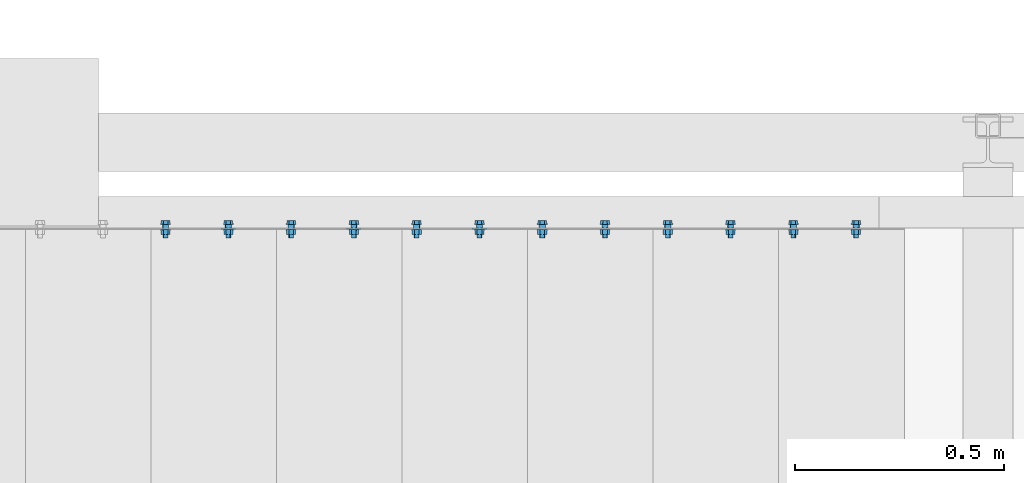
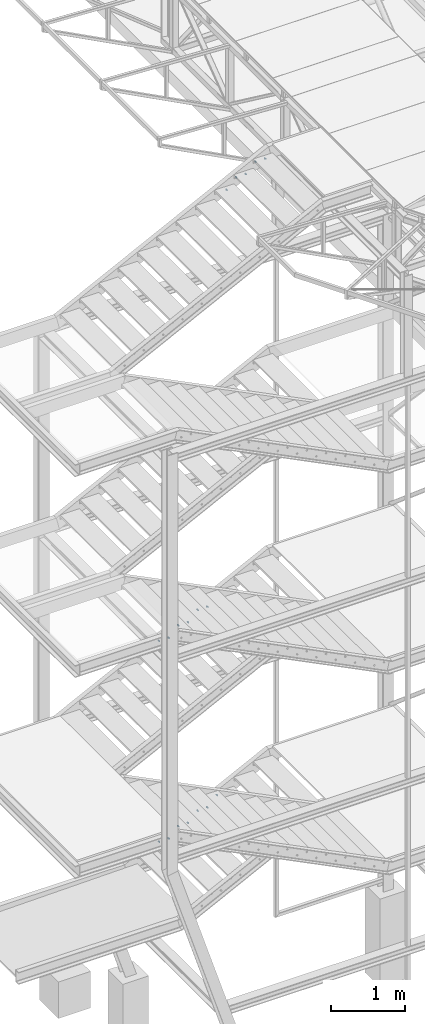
# One storey, part 113 of 132: 18 mechanical fasteners, 10 elements without a shape of their own.
"""IFC2X3 building model written with IfcOpenShell, lengths in millimetres."""

from ifc_helpers import new_model, si_unit, frame, frame_2d, origin_with_axes, origin_2d_with_axis, place, context, subcontext, project, spatial, polyline, circle_curve, parameter, trimmed, segment, composite_curve, circle, outline, extrude, source, transform, mapped, material, type_object, element, aggregate, save


model = new_model("IFC2X3")

# Units and contexts
model_context = context("Model", 3, precision=1e-05, world=origin_with_axes())
body_context = subcontext(model_context, "Body", "Model", "MODEL_VIEW")
ifc_project = project(units=[si_unit("LENGTHUNIT", "METRE", prefix="MILLI"), si_unit("AREAUNIT", "SQUARE_METRE"), si_unit("VOLUMEUNIT", "CUBIC_METRE"), si_unit("MASSUNIT", "GRAM", prefix="KILO"), si_unit("TIMEUNIT", "SECOND"), si_unit("PLANEANGLEUNIT", "RADIAN"), si_unit("SOLIDANGLEUNIT", "STERADIAN"), si_unit("THERMODYNAMICTEMPERATUREUNIT", "DEGREE_CELSIUS"), si_unit("LUMINOUSINTENSITYUNIT", "LUMEN")], contexts=[model_context])

# Site, building, storey
site_placement = place(None, origin_with_axes())
site = spatial("IfcSite", under=ifc_project, at=site_placement, Name="Budowa", CompositionType="ELEMENT")
building_placement = place(site_placement, origin_with_axes())
building = spatial("IfcBuilding", under=site, at=building_placement, Name="Undefined", CompositionType="ELEMENT")
storey_placement = place(building_placement, origin_with_axes())
storey = spatial("IfcBuildingStorey", under=building, at=storey_placement, Name="Undefined", CompositionType="ELEMENT", Elevation=0.0)

# Assembly, mechanical fasteners
assembly_1_placement = place(storey_placement, origin_with_axes())
assembly_1 = element("IfcElementAssembly", 1, at=assembly_1_placement, inside=storey, Name="Steel Assembly", AssemblyPlace="NOTDEFINED", PredefinedType="RIGID_FRAME")
ifc_material = material(Name="Undefined")
discrete_accessory_type = type_object("IfcDiscreteAccessoryType", Name="Bolt assembly")
shared_shape_1 = source(origin_with_axes(), body_context, "Body", "SweptSolid", [
    extrude(circle(Radius=7.5, at=origin_2d_with_axis()), frame((0.0, -8.40000000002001, 0.0), z_axis=(0.0, 1.0, 0.0), x_axis=(1.0, 0.0, 0.0)), (0.0, 0.0, 1.0), 8.5),
    extrude(outline(composite_curve([segment(polyline([(-10.0, 7.5), (10.0, 7.5)]), True, "CONTINUOUS"), segment(trimmed(circle_curve(frame_2d((10.0, 0.0), x_axis=(0.0, 1.0)), 7.5), [parameter(0.0)], [parameter(3.14159265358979)], False, "PARAMETER"), True, "CONTINUOUS"), segment(polyline([(10.0, -7.5), (-10.0, -7.5)]), True, "CONTINUOUS"), segment(trimmed(circle_curve(frame_2d((-10.0, 0.0), x_axis=(0.0, -1.0)), 7.5), [parameter(0.0)], [parameter(3.14159265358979)], False, "PARAMETER"), True, "DISCONTINUOUS")], self_intersect=False)), frame((0.0, -0.1, 0.0), z_axis=(0.0, 1.0, 0.0), x_axis=(1.0, 0.0, 0.0)), (0.0, 0.0, 1.0), 3.1),
    extrude(outline(polyline([(10.39230484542, 0.0), (5.19615242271, 9.00000000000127), (-5.19615242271, 9.00000000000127), (-10.39230484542, 0.0), (-5.19615242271, -9.00000000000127), (5.19615242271, -9.00000000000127), (10.39230484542, 0.0)])), frame((0.0, -18.50000000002, 0.0), z_axis=(0.0, 1.0, 0.0), x_axis=(1.0, 0.0, 0.0)), (0.0, 0.0, 1.0), 7.5),
    extrude(circle(Radius=6.0, at=origin_2d_with_axis()), frame((0.0, -11.00000000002, 0.0), z_axis=(0.0, 1.0, 0.0), x_axis=(1.0, 0.0, 0.0)), (0.0, 0.0, 1.0), 35.0),
    extrude(circle(Radius=12.0, at=origin_2d_with_axis()), frame((0.0, -11.00000000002, 0.0), z_axis=(0.0, 1.0, 0.0), x_axis=(1.0, 0.0, 0.0)), (0.0, 0.0, 1.0), 2.5),
    extrude(circle(Radius=12.0, at=origin_2d_with_axis()), frame((0.0, 3.0, 0.0), z_axis=(0.0, 1.0, 0.0), x_axis=(1.0, 0.0, 0.0)), (0.0, 0.0, 1.0), 2.5),
    extrude(outline(polyline([(10.96965511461, 0.0), (5.484827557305, 9.50000000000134), (-5.484827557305, 9.50000000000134), (-10.96965511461, 0.0), (-5.484827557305, -9.50000000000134), (5.484827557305, -9.50000000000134), (10.96965511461, 0.0)])), frame((0.0, 5.5, 0.0), z_axis=(0.0, 1.0, 0.0), x_axis=(1.0, 0.0, 0.0)), (0.0, 0.0, 1.0), 10.0),
])
mechanical_fastener_1_placement = place(assembly_1_placement, frame((-1120.00000008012, 10925.0000000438, 13849.9999999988), z_axis=(0.0, 0.0, -1.0), x_axis=(1.0, 0.0, 0.0)))
mechanical_fastener_1 = element("IfcMechanicalFastener", 2, at=mechanical_fastener_1_placement, type_object=discrete_accessory_type, material=ifc_material, Name="Bolt assembly", NominalDiameter=12.0, NominalLength=35.0, context=body_context, shape_type="MappedRepresentation", body=[
    mapped(shared_shape_1, transform((185.0, 0.0, 25.0))),
])
shared_shape_2 = source(origin_with_axes(), body_context, "Body", "SweptSolid", [
    extrude(circle(Radius=7.5, at=origin_2d_with_axis()), frame((0.0, -8.40000000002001, 0.0), z_axis=(0.0, 1.0, 0.0), x_axis=(1.0, 0.0, 0.0)), (0.0, 0.0, 1.0), 8.5),
    extrude(circle(Radius=7.5, at=origin_2d_with_axis()), frame((0.0, -0.1, 0.0), z_axis=(0.0, 1.0, 0.0), x_axis=(1.0, 0.0, 0.0)), (0.0, 0.0, 1.0), 3.1),
    extrude(outline(polyline([(10.39230484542, 0.0), (5.19615242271, 9.00000000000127), (-5.19615242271, 9.00000000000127), (-10.39230484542, 0.0), (-5.19615242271, -9.00000000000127), (5.19615242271, -9.00000000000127), (10.39230484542, 0.0)])), frame((0.0, -18.50000000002, 0.0), z_axis=(0.0, 1.0, 0.0), x_axis=(1.0, 0.0, 0.0)), (0.0, 0.0, 1.0), 7.5),
    extrude(circle(Radius=6.0, at=origin_2d_with_axis()), frame((0.0, -11.00000000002, 0.0), z_axis=(0.0, 1.0, 0.0), x_axis=(1.0, 0.0, 0.0)), (0.0, 0.0, 1.0), 35.0),
    extrude(circle(Radius=12.0, at=origin_2d_with_axis()), frame((0.0, -11.00000000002, 0.0), z_axis=(0.0, 1.0, 0.0), x_axis=(1.0, 0.0, 0.0)), (0.0, 0.0, 1.0), 2.5),
    extrude(circle(Radius=12.0, at=origin_2d_with_axis()), frame((0.0, 3.0, 0.0), z_axis=(0.0, 1.0, 0.0), x_axis=(1.0, 0.0, 0.0)), (0.0, 0.0, 1.0), 2.5),
    extrude(outline(polyline([(10.96965511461, 0.0), (5.484827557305, 9.50000000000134), (-5.484827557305, 9.50000000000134), (-10.96965511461, 0.0), (-5.484827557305, -9.50000000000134), (5.484827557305, -9.50000000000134), (10.96965511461, 0.0)])), frame((0.0, 5.5, 0.0), z_axis=(0.0, 1.0, 0.0), x_axis=(1.0, 0.0, 0.0)), (0.0, 0.0, 1.0), 10.0),
])
mechanical_fastener_2_placement = place(assembly_1_placement, frame((-1120.00000008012, 10925.0000000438, 13849.9999999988), z_axis=(0.0, 0.0, -1.0), x_axis=(1.0, 0.0, 0.0)))
mechanical_fastener_2 = element("IfcMechanicalFastener", 3, at=mechanical_fastener_2_placement, type_object=discrete_accessory_type, material=ifc_material, Name="Bolt assembly", NominalDiameter=12.0, NominalLength=35.0, context=body_context, shape_type="MappedRepresentation", body=[
    mapped(shared_shape_2, transform((35.0, 0.0, 25.0))),
])
aggregate(assembly_1, [mechanical_fastener_1, mechanical_fastener_2])

# Assembly, mechanical fastener
assembly_2_placement = place(storey_placement, origin_with_axes())
assembly_2 = element("IfcElementAssembly", 4, at=assembly_2_placement, inside=storey, Name="Steel Assembly", AssemblyPlace="NOTDEFINED", PredefinedType="RIGID_FRAME")
mechanical_fastener_3_placement = place(assembly_2_placement, frame((-1420.00000008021, 10925.0000000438, 13699.9999999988), z_axis=(0.0, 0.0, -1.0), x_axis=(1.0, 0.0, 0.0)))
mechanical_fastener_3 = element("IfcMechanicalFastener", 5, at=mechanical_fastener_3_placement, type_object=discrete_accessory_type, material=ifc_material, Name="Bolt assembly", NominalDiameter=12.0, NominalLength=35.0, context=body_context, shape_type="MappedRepresentation", body=[
    mapped(shared_shape_2, transform((35.0, 0.0, 25.0))),
])

assembly_3_placement = place(storey_placement, origin_with_axes())
assembly_3 = element("IfcElementAssembly", 6, at=assembly_3_placement, inside=storey, Name="Steel Assembly", AssemblyPlace="NOTDEFINED", PredefinedType="RIGID_FRAME")
mechanical_fastener_4_placement = place(assembly_3_placement, frame((-2020.00000008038, 10925.0000000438, 6799.99999999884), z_axis=(0.0, 0.0, -1.0), x_axis=(1.0, 0.0, 0.0)))
mechanical_fastener_4 = element("IfcMechanicalFastener", 7, at=mechanical_fastener_4_placement, type_object=discrete_accessory_type, material=ifc_material, Name="Bolt assembly", NominalDiameter=12.0, NominalLength=35.0, context=body_context, shape_type="MappedRepresentation", body=[
    mapped(shared_shape_2, transform((35.0, 0.0, 25.0))),
])

assembly_4_placement = place(storey_placement, origin_with_axes())
assembly_4 = element("IfcElementAssembly", 8, at=assembly_4_placement, inside=storey, Name="Steel Assembly", AssemblyPlace="NOTDEFINED", PredefinedType="RIGID_FRAME")
mechanical_fastener_5_placement = place(assembly_4_placement, frame((-2320.00000008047, 10925.0000000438, 6649.99999999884), z_axis=(0.0, 0.0, -1.0), x_axis=(1.0, 0.0, 0.0)))
mechanical_fastener_5 = element("IfcMechanicalFastener", 9, at=mechanical_fastener_5_placement, type_object=discrete_accessory_type, material=ifc_material, Name="Bolt assembly", NominalDiameter=12.0, NominalLength=35.0, context=body_context, shape_type="MappedRepresentation", body=[
    mapped(shared_shape_2, transform((35.0, 0.0, 25.0))),
])

assembly_5_placement = place(storey_placement, origin_with_axes())
assembly_5 = element("IfcElementAssembly", 10, at=assembly_5_placement, inside=storey, Name="Steel Assembly", AssemblyPlace="NOTDEFINED", PredefinedType="RIGID_FRAME")
mechanical_fastener_6_placement = place(assembly_5_placement, frame((-2620.00000008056, 10925.0000000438, 6499.99999999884), z_axis=(0.0, 0.0, -1.0), x_axis=(1.0, 0.0, 0.0)))
mechanical_fastener_6 = element("IfcMechanicalFastener", 11, at=mechanical_fastener_6_placement, type_object=discrete_accessory_type, material=ifc_material, Name="Bolt assembly", NominalDiameter=12.0, NominalLength=35.0, context=body_context, shape_type="MappedRepresentation", body=[
    mapped(shared_shape_2, transform((35.0, 0.0, 25.0))),
])

assembly_6_placement = place(storey_placement, origin_with_axes())
assembly_6 = element("IfcElementAssembly", 12, at=assembly_6_placement, inside=storey, Name="Steel Assembly", AssemblyPlace="NOTDEFINED", PredefinedType="RIGID_FRAME")
mechanical_fastener_7_placement = place(assembly_6_placement, frame((-1720.00000008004, 10925.0000000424, 3649.99999999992), z_axis=(0.0, 0.0, -1.0), x_axis=(1.0, 0.0, 0.0)))
mechanical_fastener_7 = element("IfcMechanicalFastener", 13, at=mechanical_fastener_7_placement, type_object=discrete_accessory_type, material=ifc_material, Name="Bolt assembly", NominalDiameter=12.0, NominalLength=35.0, context=body_context, shape_type="MappedRepresentation", body=[
    mapped(shared_shape_2, transform((35.0, 0.0, 25.0))),
])
aggregate(assembly_6, [mechanical_fastener_7])

assembly_7_placement = place(storey_placement, origin_with_axes())
assembly_7 = element("IfcElementAssembly", 14, at=assembly_7_placement, inside=storey, Name="Steel Assembly", AssemblyPlace="NOTDEFINED", PredefinedType="RIGID_FRAME")
mechanical_fastener_8_placement = place(assembly_7_placement, frame((-2020.00000008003, 10925.0000000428, 3499.99999999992), z_axis=(0.0, 0.0, -1.0), x_axis=(1.0, 0.0, 0.0)))
mechanical_fastener_8 = element("IfcMechanicalFastener", 15, at=mechanical_fastener_8_placement, type_object=discrete_accessory_type, material=ifc_material, Name="Bolt assembly", NominalDiameter=12.0, NominalLength=35.0, context=body_context, shape_type="MappedRepresentation", body=[
    mapped(shared_shape_2, transform((35.0, 0.0, 25.0))),
])

assembly_8_placement = place(storey_placement, origin_with_axes())
assembly_8 = element("IfcElementAssembly", 16, at=assembly_8_placement, inside=storey, Name="Steel Assembly", AssemblyPlace="NOTDEFINED", PredefinedType="RIGID_FRAME")
mechanical_fastener_9_placement = place(assembly_8_placement, frame((-2320.00000008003, 10925.0000000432, 3349.99999999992), z_axis=(0.0, 0.0, -1.0), x_axis=(1.0, 0.0, 0.0)))
mechanical_fastener_9 = element("IfcMechanicalFastener", 17, at=mechanical_fastener_9_placement, type_object=discrete_accessory_type, material=ifc_material, Name="Bolt assembly", NominalDiameter=12.0, NominalLength=35.0, context=body_context, shape_type="MappedRepresentation", body=[
    mapped(shared_shape_2, transform((35.0, 0.0, 25.0))),
])

assembly_9_placement = place(storey_placement, origin_with_axes())
assembly_9 = element("IfcElementAssembly", 18, at=assembly_9_placement, inside=storey, Name="Steel Assembly", AssemblyPlace="NOTDEFINED", PredefinedType="RIGID_FRAME")
mechanical_fastener_10_placement = place(assembly_9_placement, frame((-2620.00000008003, 10925.0000000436, 3199.99999999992), z_axis=(0.0, 0.0, -1.0), x_axis=(1.0, 0.0, 0.0)))
mechanical_fastener_10 = element("IfcMechanicalFastener", 19, at=mechanical_fastener_10_placement, type_object=discrete_accessory_type, material=ifc_material, Name="Bolt assembly", NominalDiameter=12.0, NominalLength=35.0, context=body_context, shape_type="MappedRepresentation", body=[
    mapped(shared_shape_2, transform((35.0, 0.0, 25.0))),
])

# Mechanical fastener
shared_shape_3 = source(origin_with_axes(), body_context, "Body", "SweptSolid", [
    extrude(circle(Radius=7.5, at=origin_2d_with_axis()), frame((0.0, -8.40000000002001, 0.0), z_axis=(0.0, 1.0, 0.0), x_axis=(1.0, 0.0, 0.0)), (0.0, 0.0, 1.0), 8.5),
    extrude(outline(composite_curve([segment(polyline([(-10.0, 7.5), (10.0, 7.5)]), True, "CONTINUOUS"), segment(trimmed(circle_curve(frame_2d((10.0, 0.0), x_axis=(0.0, 1.0)), 7.5), [parameter(0.0)], [parameter(3.14159265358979)], False, "PARAMETER"), True, "CONTINUOUS"), segment(polyline([(10.0, -7.5), (-10.0, -7.5)]), True, "CONTINUOUS"), segment(trimmed(circle_curve(frame_2d((-10.0, 0.0), x_axis=(0.0, -1.0)), 7.5), [parameter(0.0)], [parameter(3.14159265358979)], False, "PARAMETER"), True, "DISCONTINUOUS")], self_intersect=False)), frame((0.0, -0.1, 0.0), z_axis=(0.0, 1.0, 0.0), x_axis=(1.0, 0.0, 0.0)), (0.0, 0.0, 1.0), 3.1),
    extrude(outline(polyline([(10.39230484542, 0.0), (5.19615242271, 9.00000000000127), (-5.19615242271, 9.00000000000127), (-10.39230484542, 0.0), (-5.19615242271, -9.00000000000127), (5.19615242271, -9.00000000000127), (10.39230484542, 0.0)])), frame((0.0, -18.50000000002, 0.0), z_axis=(0.0, 1.0, 0.0), x_axis=(1.0, 0.0, 0.0)), (0.0, 0.0, 1.0), 7.5),
    extrude(circle(Radius=6.0, at=origin_2d_with_axis()), frame((0.0, -11.00000000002, 0.0), z_axis=(0.0, 1.0, 0.0), x_axis=(1.0, 0.0, 0.0)), (0.0, 0.0, 1.0), 35.0),
    extrude(circle(Radius=12.0, at=origin_2d_with_axis()), frame((0.0, -11.00000000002, 0.0), z_axis=(0.0, 1.0, 0.0), x_axis=(1.0, 0.0, 0.0)), (0.0, 0.0, 1.0), 2.5),
    extrude(circle(Radius=12.0, at=origin_2d_with_axis()), frame((0.0, 3.0, 0.0), z_axis=(0.0, 1.0, 0.0), x_axis=(1.0, 0.0, 0.0)), (0.0, 0.0, 1.0), 2.5),
    extrude(outline(polyline([(10.96965511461, 0.0), (5.484827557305, 9.50000000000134), (-5.484827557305, 9.50000000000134), (-10.96965511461, 0.0), (-5.484827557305, -9.50000000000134), (5.484827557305, -9.50000000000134), (10.96965511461, 0.0)])), frame((0.0, 5.5, 0.0), z_axis=(0.0, 1.0, 0.0), x_axis=(1.0, 0.0, 0.0)), (0.0, 0.0, 1.0), 10.0),
])
mechanical_fastener_11_placement = place(assembly_2_placement, frame((-1420.00000008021, 10925.0000000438, 13699.9999999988), z_axis=(0.0, 0.0, -1.0), x_axis=(1.0, 0.0, 0.0)))
mechanical_fastener_11 = element("IfcMechanicalFastener", 20, at=mechanical_fastener_11_placement, type_object=discrete_accessory_type, material=ifc_material, Name="Bolt assembly", NominalDiameter=12.0, NominalLength=35.0, context=body_context, shape_type="MappedRepresentation", body=[
    mapped(shared_shape_3, transform((185.0, 0.0, 25.0))),
])

aggregate(assembly_2, [mechanical_fastener_11, mechanical_fastener_3])

# Assembly, mechanical fastener
assembly_10_placement = place(storey_placement, origin_with_axes())
assembly_10 = element("IfcElementAssembly", 21, at=assembly_10_placement, inside=storey, Name="Steel Assembly", AssemblyPlace="NOTDEFINED", PredefinedType="RIGID_FRAME")
shared_shape_4 = source(origin_with_axes(), body_context, "Body", "SweptSolid", [
    extrude(circle(Radius=7.5, at=origin_2d_with_axis()), frame((0.0, -8.40000000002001, 0.0), z_axis=(0.0, 1.0, 0.0), x_axis=(1.0, 0.0, 0.0)), (0.0, 0.0, 1.0), 8.5),
    extrude(outline(composite_curve([segment(polyline([(-10.0, 7.5), (10.0, 7.5)]), True, "CONTINUOUS"), segment(trimmed(circle_curve(frame_2d((10.0, 0.0), x_axis=(0.0, 1.0)), 7.5), [parameter(0.0)], [parameter(3.14159265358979)], False, "PARAMETER"), True, "CONTINUOUS"), segment(polyline([(10.0, -7.5), (-10.0, -7.5)]), True, "CONTINUOUS"), segment(trimmed(circle_curve(frame_2d((-10.0, 0.0), x_axis=(0.0, -1.0)), 7.5), [parameter(0.0)], [parameter(3.14159265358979)], False, "PARAMETER"), True, "DISCONTINUOUS")], self_intersect=False)), frame((0.0, -0.1, 0.0), z_axis=(0.0, 1.0, 0.0), x_axis=(1.0, 0.0, 0.0)), (0.0, 0.0, 1.0), 3.1),
    extrude(outline(polyline([(10.39230484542, 0.0), (5.19615242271, 9.00000000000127), (-5.19615242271, 9.00000000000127), (-10.39230484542, 0.0), (-5.19615242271, -9.00000000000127), (5.19615242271, -9.00000000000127), (10.39230484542, 0.0)])), frame((0.0, -18.50000000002, 0.0), z_axis=(0.0, 1.0, 0.0), x_axis=(1.0, 0.0, 0.0)), (0.0, 0.0, 1.0), 7.5),
    extrude(circle(Radius=6.0, at=origin_2d_with_axis()), frame((0.0, -11.00000000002, 0.0), z_axis=(0.0, 1.0, 0.0), x_axis=(1.0, 0.0, 0.0)), (0.0, 0.0, 1.0), 35.0),
    extrude(circle(Radius=12.0, at=origin_2d_with_axis()), frame((0.0, -11.00000000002, 0.0), z_axis=(0.0, 1.0, 0.0), x_axis=(1.0, 0.0, 0.0)), (0.0, 0.0, 1.0), 2.5),
    extrude(circle(Radius=12.0, at=origin_2d_with_axis()), frame((0.0, 3.0, 0.0), z_axis=(0.0, 1.0, 0.0), x_axis=(1.0, 0.0, 0.0)), (0.0, 0.0, 1.0), 2.5),
    extrude(outline(polyline([(10.96965511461, 0.0), (5.484827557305, 9.50000000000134), (-5.484827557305, 9.50000000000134), (-10.96965511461, 0.0), (-5.484827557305, -9.50000000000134), (5.484827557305, -9.50000000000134), (10.96965511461, 0.0)])), frame((0.0, 5.5, 0.0), z_axis=(0.0, 1.0, 0.0), x_axis=(1.0, 0.0, 0.0)), (0.0, 0.0, 1.0), 10.0),
])
mechanical_fastener_12_placement = place(assembly_10_placement, frame((-1720.0000000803, 10925.0000000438, 13549.9999999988), z_axis=(0.0, 0.0, -1.0), x_axis=(1.0, 0.0, 0.0)))
mechanical_fastener_12 = element("IfcMechanicalFastener", 22, at=mechanical_fastener_12_placement, type_object=discrete_accessory_type, material=ifc_material, Name="Bolt assembly", NominalDiameter=12.0, NominalLength=35.0, context=body_context, shape_type="MappedRepresentation", body=[
    mapped(shared_shape_4, transform((185.0, 0.0, 25.0))),
])
aggregate(assembly_10, [mechanical_fastener_12])

# Mechanical fastener
shared_shape_5 = source(origin_with_axes(), body_context, "Body", "SweptSolid", [
    extrude(circle(Radius=7.5, at=origin_2d_with_axis()), frame((0.0, -8.40000000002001, 0.0), z_axis=(0.0, 1.0, 0.0), x_axis=(1.0, 0.0, 0.0)), (0.0, 0.0, 1.0), 8.5),
    extrude(outline(composite_curve([segment(polyline([(-10.0, 7.5), (10.0, 7.5)]), True, "CONTINUOUS"), segment(trimmed(circle_curve(frame_2d((10.0, 0.0), x_axis=(0.0, 1.0)), 7.5), [parameter(0.0)], [parameter(3.14159265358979)], False, "PARAMETER"), True, "CONTINUOUS"), segment(polyline([(10.0, -7.5), (-10.0, -7.5)]), True, "CONTINUOUS"), segment(trimmed(circle_curve(frame_2d((-10.0, 0.0), x_axis=(0.0, -1.0)), 7.5), [parameter(0.0)], [parameter(3.14159265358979)], False, "PARAMETER"), True, "DISCONTINUOUS")], self_intersect=False)), frame((0.0, -0.1, 0.0), z_axis=(0.0, 1.0, 0.0), x_axis=(1.0, 0.0, 0.0)), (0.0, 0.0, 1.0), 3.1),
    extrude(outline(polyline([(10.39230484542, 0.0), (5.19615242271, 9.00000000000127), (-5.19615242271, 9.00000000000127), (-10.39230484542, 0.0), (-5.19615242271, -9.00000000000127), (5.19615242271, -9.00000000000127), (10.39230484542, 0.0)])), frame((0.0, -18.50000000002, 0.0), z_axis=(0.0, 1.0, 0.0), x_axis=(1.0, 0.0, 0.0)), (0.0, 0.0, 1.0), 7.5),
    extrude(circle(Radius=6.0, at=origin_2d_with_axis()), frame((0.0, -11.00000000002, 0.0), z_axis=(0.0, 1.0, 0.0), x_axis=(1.0, 0.0, 0.0)), (0.0, 0.0, 1.0), 35.0),
    extrude(circle(Radius=12.0, at=origin_2d_with_axis()), frame((0.0, -11.00000000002, 0.0), z_axis=(0.0, 1.0, 0.0), x_axis=(1.0, 0.0, 0.0)), (0.0, 0.0, 1.0), 2.5),
    extrude(circle(Radius=12.0, at=origin_2d_with_axis()), frame((0.0, 3.0, 0.0), z_axis=(0.0, 1.0, 0.0), x_axis=(1.0, 0.0, 0.0)), (0.0, 0.0, 1.0), 2.5),
    extrude(outline(polyline([(10.96965511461, 0.0), (5.484827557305, 9.50000000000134), (-5.484827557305, 9.50000000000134), (-10.96965511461, 0.0), (-5.484827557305, -9.50000000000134), (5.484827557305, -9.50000000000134), (10.96965511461, 0.0)])), frame((0.0, 5.5, 0.0), z_axis=(0.0, 1.0, 0.0), x_axis=(1.0, 0.0, 0.0)), (0.0, 0.0, 1.0), 10.0),
])
mechanical_fastener_13_placement = place(assembly_3_placement, frame((-2020.00000008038, 10925.0000000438, 6799.99999999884), z_axis=(0.0, 0.0, -1.0), x_axis=(1.0, 0.0, 0.0)))
mechanical_fastener_13 = element("IfcMechanicalFastener", 23, at=mechanical_fastener_13_placement, type_object=discrete_accessory_type, material=ifc_material, Name="Bolt assembly", NominalDiameter=12.0, NominalLength=35.0, context=body_context, shape_type="MappedRepresentation", body=[
    mapped(shared_shape_5, transform((185.0, 0.0, 25.0))),
])

aggregate(assembly_3, [mechanical_fastener_13, mechanical_fastener_4])

shared_shape_6 = source(origin_with_axes(), body_context, "Body", "SweptSolid", [
    extrude(circle(Radius=7.5, at=origin_2d_with_axis()), frame((0.0, -8.40000000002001, 0.0), z_axis=(0.0, 1.0, 0.0), x_axis=(1.0, 0.0, 0.0)), (0.0, 0.0, 1.0), 8.5),
    extrude(outline(composite_curve([segment(polyline([(-10.0, 7.5), (10.0, 7.5)]), True, "CONTINUOUS"), segment(trimmed(circle_curve(frame_2d((10.0, 0.0), x_axis=(0.0, 1.0)), 7.5), [parameter(0.0)], [parameter(3.14159265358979)], False, "PARAMETER"), True, "CONTINUOUS"), segment(polyline([(10.0, -7.5), (-10.0, -7.5)]), True, "CONTINUOUS"), segment(trimmed(circle_curve(frame_2d((-10.0, 0.0), x_axis=(0.0, -1.0)), 7.5), [parameter(0.0)], [parameter(3.14159265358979)], False, "PARAMETER"), True, "DISCONTINUOUS")], self_intersect=False)), frame((0.0, -0.1, 0.0), z_axis=(0.0, 1.0, 0.0), x_axis=(1.0, 0.0, 0.0)), (0.0, 0.0, 1.0), 3.1),
    extrude(outline(polyline([(10.39230484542, 0.0), (5.19615242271, 9.00000000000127), (-5.19615242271, 9.00000000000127), (-10.39230484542, 0.0), (-5.19615242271, -9.00000000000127), (5.19615242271, -9.00000000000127), (10.39230484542, 0.0)])), frame((0.0, -18.50000000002, 0.0), z_axis=(0.0, 1.0, 0.0), x_axis=(1.0, 0.0, 0.0)), (0.0, 0.0, 1.0), 7.5),
    extrude(circle(Radius=6.0, at=origin_2d_with_axis()), frame((0.0, -11.00000000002, 0.0), z_axis=(0.0, 1.0, 0.0), x_axis=(1.0, 0.0, 0.0)), (0.0, 0.0, 1.0), 35.0),
    extrude(circle(Radius=12.0, at=origin_2d_with_axis()), frame((0.0, -11.00000000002, 0.0), z_axis=(0.0, 1.0, 0.0), x_axis=(1.0, 0.0, 0.0)), (0.0, 0.0, 1.0), 2.5),
    extrude(circle(Radius=12.0, at=origin_2d_with_axis()), frame((0.0, 3.0, 0.0), z_axis=(0.0, 1.0, 0.0), x_axis=(1.0, 0.0, 0.0)), (0.0, 0.0, 1.0), 2.5),
    extrude(outline(polyline([(10.96965511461, 0.0), (5.484827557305, 9.50000000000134), (-5.484827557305, 9.50000000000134), (-10.96965511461, 0.0), (-5.484827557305, -9.50000000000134), (5.484827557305, -9.50000000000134), (10.96965511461, 0.0)])), frame((0.0, 5.5, 0.0), z_axis=(0.0, 1.0, 0.0), x_axis=(1.0, 0.0, 0.0)), (0.0, 0.0, 1.0), 10.0),
])
mechanical_fastener_14_placement = place(assembly_4_placement, frame((-2320.00000008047, 10925.0000000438, 6649.99999999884), z_axis=(0.0, 0.0, -1.0), x_axis=(1.0, 0.0, 0.0)))
mechanical_fastener_14 = element("IfcMechanicalFastener", 24, at=mechanical_fastener_14_placement, type_object=discrete_accessory_type, material=ifc_material, Name="Bolt assembly", NominalDiameter=12.0, NominalLength=35.0, context=body_context, shape_type="MappedRepresentation", body=[
    mapped(shared_shape_6, transform((185.0, 0.0, 25.0))),
])

aggregate(assembly_4, [mechanical_fastener_14, mechanical_fastener_5])

shared_shape_7 = source(origin_with_axes(), body_context, "Body", "SweptSolid", [
    extrude(circle(Radius=7.5, at=origin_2d_with_axis()), frame((0.0, -8.40000000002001, 0.0), z_axis=(0.0, 1.0, 0.0), x_axis=(1.0, 0.0, 0.0)), (0.0, 0.0, 1.0), 8.5),
    extrude(outline(composite_curve([segment(polyline([(-10.0, 7.5), (10.0, 7.5)]), True, "CONTINUOUS"), segment(trimmed(circle_curve(frame_2d((10.0, 0.0), x_axis=(0.0, 1.0)), 7.5), [parameter(0.0)], [parameter(3.14159265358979)], False, "PARAMETER"), True, "CONTINUOUS"), segment(polyline([(10.0, -7.5), (-10.0, -7.5)]), True, "CONTINUOUS"), segment(trimmed(circle_curve(frame_2d((-10.0, 0.0), x_axis=(0.0, -1.0)), 7.5), [parameter(0.0)], [parameter(3.14159265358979)], False, "PARAMETER"), True, "DISCONTINUOUS")], self_intersect=False)), frame((0.0, -0.1, 0.0), z_axis=(0.0, 1.0, 0.0), x_axis=(1.0, 0.0, 0.0)), (0.0, 0.0, 1.0), 3.1),
    extrude(outline(polyline([(10.39230484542, 0.0), (5.19615242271, 9.00000000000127), (-5.19615242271, 9.00000000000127), (-10.39230484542, 0.0), (-5.19615242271, -9.00000000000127), (5.19615242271, -9.00000000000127), (10.39230484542, 0.0)])), frame((0.0, -18.50000000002, 0.0), z_axis=(0.0, 1.0, 0.0), x_axis=(1.0, 0.0, 0.0)), (0.0, 0.0, 1.0), 7.5),
    extrude(circle(Radius=6.0, at=origin_2d_with_axis()), frame((0.0, -11.00000000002, 0.0), z_axis=(0.0, 1.0, 0.0), x_axis=(1.0, 0.0, 0.0)), (0.0, 0.0, 1.0), 35.0),
    extrude(circle(Radius=12.0, at=origin_2d_with_axis()), frame((0.0, -11.00000000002, 0.0), z_axis=(0.0, 1.0, 0.0), x_axis=(1.0, 0.0, 0.0)), (0.0, 0.0, 1.0), 2.5),
    extrude(circle(Radius=12.0, at=origin_2d_with_axis()), frame((0.0, 3.0, 0.0), z_axis=(0.0, 1.0, 0.0), x_axis=(1.0, 0.0, 0.0)), (0.0, 0.0, 1.0), 2.5),
    extrude(outline(polyline([(10.96965511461, 0.0), (5.484827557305, 9.50000000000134), (-5.484827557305, 9.50000000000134), (-10.96965511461, 0.0), (-5.484827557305, -9.50000000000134), (5.484827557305, -9.50000000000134), (10.96965511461, 0.0)])), frame((0.0, 5.5, 0.0), z_axis=(0.0, 1.0, 0.0), x_axis=(1.0, 0.0, 0.0)), (0.0, 0.0, 1.0), 10.0),
])
mechanical_fastener_15_placement = place(assembly_5_placement, frame((-2620.00000008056, 10925.0000000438, 6499.99999999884), z_axis=(0.0, 0.0, -1.0), x_axis=(1.0, 0.0, 0.0)))
mechanical_fastener_15 = element("IfcMechanicalFastener", 25, at=mechanical_fastener_15_placement, type_object=discrete_accessory_type, material=ifc_material, Name="Bolt assembly", NominalDiameter=12.0, NominalLength=35.0, context=body_context, shape_type="MappedRepresentation", body=[
    mapped(shared_shape_7, transform((185.0, 0.0, 25.0))),
])

aggregate(assembly_5, [mechanical_fastener_15, mechanical_fastener_6])

shared_shape_8 = source(origin_with_axes(), body_context, "Body", "SweptSolid", [
    extrude(circle(Radius=7.5, at=origin_2d_with_axis()), frame((0.0, -8.40000000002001, 0.0), z_axis=(0.0, 1.0, 0.0), x_axis=(1.0, 0.0, 0.0)), (0.0, 0.0, 1.0), 8.5),
    extrude(outline(composite_curve([segment(polyline([(-10.0, 7.5), (10.0, 7.5)]), True, "CONTINUOUS"), segment(trimmed(circle_curve(frame_2d((10.0, 0.0), x_axis=(0.0, 1.0)), 7.5), [parameter(0.0)], [parameter(3.14159265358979)], False, "PARAMETER"), True, "CONTINUOUS"), segment(polyline([(10.0, -7.5), (-10.0, -7.5)]), True, "CONTINUOUS"), segment(trimmed(circle_curve(frame_2d((-10.0, 0.0), x_axis=(0.0, -1.0)), 7.5), [parameter(0.0)], [parameter(3.14159265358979)], False, "PARAMETER"), True, "DISCONTINUOUS")], self_intersect=False)), frame((0.0, -0.1, 0.0), z_axis=(0.0, 1.0, 0.0), x_axis=(1.0, 0.0, 0.0)), (0.0, 0.0, 1.0), 3.1),
    extrude(outline(polyline([(10.39230484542, 0.0), (5.19615242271, 9.00000000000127), (-5.19615242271, 9.00000000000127), (-10.39230484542, 0.0), (-5.19615242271, -9.00000000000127), (5.19615242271, -9.00000000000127), (10.39230484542, 0.0)])), frame((0.0, -18.50000000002, 0.0), z_axis=(0.0, 1.0, 0.0), x_axis=(1.0, 0.0, 0.0)), (0.0, 0.0, 1.0), 7.5),
    extrude(circle(Radius=6.0, at=origin_2d_with_axis()), frame((0.0, -11.00000000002, 0.0), z_axis=(0.0, 1.0, 0.0), x_axis=(1.0, 0.0, 0.0)), (0.0, 0.0, 1.0), 35.0),
    extrude(circle(Radius=12.0, at=origin_2d_with_axis()), frame((0.0, -11.00000000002, 0.0), z_axis=(0.0, 1.0, 0.0), x_axis=(1.0, 0.0, 0.0)), (0.0, 0.0, 1.0), 2.5),
    extrude(circle(Radius=12.0, at=origin_2d_with_axis()), frame((0.0, 3.0, 0.0), z_axis=(0.0, 1.0, 0.0), x_axis=(1.0, 0.0, 0.0)), (0.0, 0.0, 1.0), 2.5),
    extrude(outline(polyline([(10.96965511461, 0.0), (5.484827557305, 9.50000000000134), (-5.484827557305, 9.50000000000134), (-10.96965511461, 0.0), (-5.484827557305, -9.50000000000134), (5.484827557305, -9.50000000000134), (10.96965511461, 0.0)])), frame((0.0, 5.5, 0.0), z_axis=(0.0, 1.0, 0.0), x_axis=(1.0, 0.0, 0.0)), (0.0, 0.0, 1.0), 10.0),
])
mechanical_fastener_16_placement = place(assembly_7_placement, frame((-2020.00000008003, 10925.0000000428, 3499.99999999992), z_axis=(0.0, 0.0, -1.0), x_axis=(1.0, 0.0, 0.0)))
mechanical_fastener_16 = element("IfcMechanicalFastener", 26, at=mechanical_fastener_16_placement, type_object=discrete_accessory_type, material=ifc_material, Name="Bolt assembly", NominalDiameter=12.0, NominalLength=35.0, context=body_context, shape_type="MappedRepresentation", body=[
    mapped(shared_shape_8, transform((185.0, 0.0, 25.0))),
])

aggregate(assembly_7, [mechanical_fastener_16, mechanical_fastener_8])

shared_shape_9 = source(origin_with_axes(), body_context, "Body", "SweptSolid", [
    extrude(circle(Radius=7.5, at=origin_2d_with_axis()), frame((0.0, -8.40000000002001, 0.0), z_axis=(0.0, 1.0, 0.0), x_axis=(1.0, 0.0, 0.0)), (0.0, 0.0, 1.0), 8.5),
    extrude(outline(composite_curve([segment(polyline([(-10.0, 7.5), (10.0, 7.5)]), True, "CONTINUOUS"), segment(trimmed(circle_curve(frame_2d((10.0, 0.0), x_axis=(0.0, 1.0)), 7.5), [parameter(0.0)], [parameter(3.14159265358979)], False, "PARAMETER"), True, "CONTINUOUS"), segment(polyline([(10.0, -7.5), (-10.0, -7.5)]), True, "CONTINUOUS"), segment(trimmed(circle_curve(frame_2d((-10.0, 0.0), x_axis=(0.0, -1.0)), 7.5), [parameter(0.0)], [parameter(3.14159265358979)], False, "PARAMETER"), True, "DISCONTINUOUS")], self_intersect=False)), frame((0.0, -0.1, 0.0), z_axis=(0.0, 1.0, 0.0), x_axis=(1.0, 0.0, 0.0)), (0.0, 0.0, 1.0), 3.1),
    extrude(outline(polyline([(10.39230484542, 0.0), (5.19615242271, 9.00000000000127), (-5.19615242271, 9.00000000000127), (-10.39230484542, 0.0), (-5.19615242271, -9.00000000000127), (5.19615242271, -9.00000000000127), (10.39230484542, 0.0)])), frame((0.0, -18.50000000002, 0.0), z_axis=(0.0, 1.0, 0.0), x_axis=(1.0, 0.0, 0.0)), (0.0, 0.0, 1.0), 7.5),
    extrude(circle(Radius=6.0, at=origin_2d_with_axis()), frame((0.0, -11.00000000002, 0.0), z_axis=(0.0, 1.0, 0.0), x_axis=(1.0, 0.0, 0.0)), (0.0, 0.0, 1.0), 35.0),
    extrude(circle(Radius=12.0, at=origin_2d_with_axis()), frame((0.0, -11.00000000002, 0.0), z_axis=(0.0, 1.0, 0.0), x_axis=(1.0, 0.0, 0.0)), (0.0, 0.0, 1.0), 2.5),
    extrude(circle(Radius=12.0, at=origin_2d_with_axis()), frame((0.0, 3.0, 0.0), z_axis=(0.0, 1.0, 0.0), x_axis=(1.0, 0.0, 0.0)), (0.0, 0.0, 1.0), 2.5),
    extrude(outline(polyline([(10.96965511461, 0.0), (5.484827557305, 9.50000000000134), (-5.484827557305, 9.50000000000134), (-10.96965511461, 0.0), (-5.484827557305, -9.50000000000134), (5.484827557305, -9.50000000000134), (10.96965511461, 0.0)])), frame((0.0, 5.5, 0.0), z_axis=(0.0, 1.0, 0.0), x_axis=(1.0, 0.0, 0.0)), (0.0, 0.0, 1.0), 10.0),
])
mechanical_fastener_17_placement = place(assembly_8_placement, frame((-2320.00000008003, 10925.0000000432, 3349.99999999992), z_axis=(0.0, 0.0, -1.0), x_axis=(1.0, 0.0, 0.0)))
mechanical_fastener_17 = element("IfcMechanicalFastener", 27, at=mechanical_fastener_17_placement, type_object=discrete_accessory_type, material=ifc_material, Name="Bolt assembly", NominalDiameter=12.0, NominalLength=35.0, context=body_context, shape_type="MappedRepresentation", body=[
    mapped(shared_shape_9, transform((185.0, 0.0, 25.0))),
])

aggregate(assembly_8, [mechanical_fastener_17, mechanical_fastener_9])

shared_shape_10 = source(origin_with_axes(), body_context, "Body", "SweptSolid", [
    extrude(circle(Radius=7.5, at=origin_2d_with_axis()), frame((0.0, -8.40000000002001, 0.0), z_axis=(0.0, 1.0, 0.0), x_axis=(1.0, 0.0, 0.0)), (0.0, 0.0, 1.0), 8.5),
    extrude(outline(composite_curve([segment(polyline([(-10.0, 7.5), (10.0, 7.5)]), True, "CONTINUOUS"), segment(trimmed(circle_curve(frame_2d((10.0, 0.0), x_axis=(0.0, 1.0)), 7.5), [parameter(0.0)], [parameter(3.14159265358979)], False, "PARAMETER"), True, "CONTINUOUS"), segment(polyline([(10.0, -7.5), (-10.0, -7.5)]), True, "CONTINUOUS"), segment(trimmed(circle_curve(frame_2d((-10.0, 0.0), x_axis=(0.0, -1.0)), 7.5), [parameter(0.0)], [parameter(3.14159265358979)], False, "PARAMETER"), True, "DISCONTINUOUS")], self_intersect=False)), frame((0.0, -0.1, 0.0), z_axis=(0.0, 1.0, 0.0), x_axis=(1.0, 0.0, 0.0)), (0.0, 0.0, 1.0), 3.1),
    extrude(outline(polyline([(10.39230484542, 0.0), (5.19615242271, 9.00000000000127), (-5.19615242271, 9.00000000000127), (-10.39230484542, 0.0), (-5.19615242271, -9.00000000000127), (5.19615242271, -9.00000000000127), (10.39230484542, 0.0)])), frame((0.0, -18.50000000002, 0.0), z_axis=(0.0, 1.0, 0.0), x_axis=(1.0, 0.0, 0.0)), (0.0, 0.0, 1.0), 7.5),
    extrude(circle(Radius=6.0, at=origin_2d_with_axis()), frame((0.0, -11.00000000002, 0.0), z_axis=(0.0, 1.0, 0.0), x_axis=(1.0, 0.0, 0.0)), (0.0, 0.0, 1.0), 35.0),
    extrude(circle(Radius=12.0, at=origin_2d_with_axis()), frame((0.0, -11.00000000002, 0.0), z_axis=(0.0, 1.0, 0.0), x_axis=(1.0, 0.0, 0.0)), (0.0, 0.0, 1.0), 2.5),
    extrude(circle(Radius=12.0, at=origin_2d_with_axis()), frame((0.0, 3.0, 0.0), z_axis=(0.0, 1.0, 0.0), x_axis=(1.0, 0.0, 0.0)), (0.0, 0.0, 1.0), 2.5),
    extrude(outline(polyline([(10.96965511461, 0.0), (5.484827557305, 9.50000000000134), (-5.484827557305, 9.50000000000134), (-10.96965511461, 0.0), (-5.484827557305, -9.50000000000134), (5.484827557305, -9.50000000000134), (10.96965511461, 0.0)])), frame((0.0, 5.5, 0.0), z_axis=(0.0, 1.0, 0.0), x_axis=(1.0, 0.0, 0.0)), (0.0, 0.0, 1.0), 10.0),
])
mechanical_fastener_18_placement = place(assembly_9_placement, frame((-2620.00000008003, 10925.0000000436, 3199.99999999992), z_axis=(0.0, 0.0, -1.0), x_axis=(1.0, 0.0, 0.0)))
mechanical_fastener_18 = element("IfcMechanicalFastener", 28, at=mechanical_fastener_18_placement, type_object=discrete_accessory_type, material=ifc_material, Name="Bolt assembly", NominalDiameter=12.0, NominalLength=35.0, context=body_context, shape_type="MappedRepresentation", body=[
    mapped(shared_shape_10, transform((185.0, 0.0, 25.0))),
])

aggregate(assembly_9, [mechanical_fastener_18, mechanical_fastener_10])

save(model, "model.ifc")
